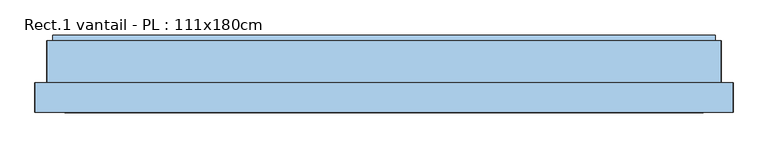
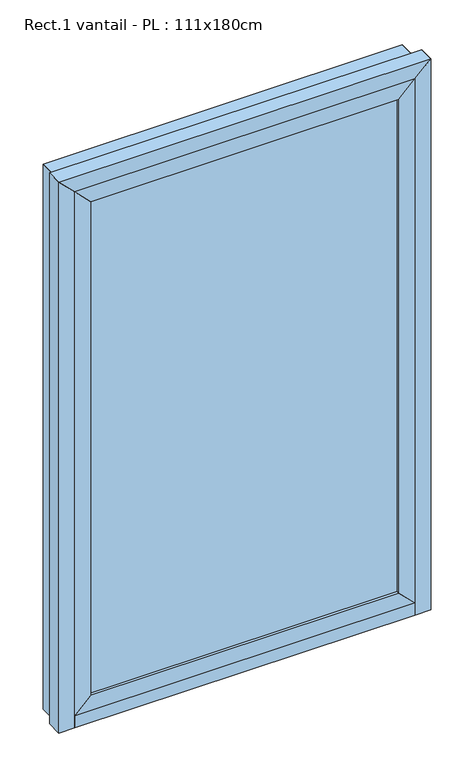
"""IFC4 building model written with IfcOpenShell, lengths in millimetres: window geometry, Rect.1 vantail - PL : 111x180cm."""

import ifcopenshell
import ifcopenshell.guid

model = None  # the IFC model being written
_history = None  # IfcOwnerHistory: only IFC2X3 demands one
_inside = {}  # id of a spatial element -> (the spatial element, [elements in it])
_under = {}  # id of a project, library or spatial element -> (it, [spatial elements below it])
_declared = {}  # id of a project -> (the project, [libraries it declares])
_typed = {}  # id of a type object -> (the type object, [elements of that type])
_made_of = {}  # id of a material, layer set ... -> (it, [elements and type objects made of it])


def new_model(schema):
    """Start an empty IFC model of exactly this schema.

    Asked for "IFC4X3", IfcOpenShell would pick the latest addendum, in which some entities
    have other attributes; the version numbers below select the first issue.
    IFC2X3 requires an IfcOwnerHistory on every rooted entity: one is made here for all.
    """
    global model, _history
    if schema == "IFC4X3":
        model = ifcopenshell.file(schema_version=(4, 3, 0, 0))
    else:
        model = ifcopenshell.file(schema=schema)
    _inside.clear()
    _under.clear()
    _declared.clear()
    _typed.clear()
    _made_of.clear()
    _history = None
    if model.schema == "IFC2X3":
        org = make("IfcOrganization", Name="unknown")
        user = make(
            "IfcPersonAndOrganization",
            ThePerson=make("IfcPerson", FamilyName="unknown"),
            TheOrganization=org,
        )
        app = make(
            "IfcApplication",
            ApplicationDeveloper=org,
            Version="unknown",
            ApplicationFullName="unknown",
            ApplicationIdentifier="unknown",
        )
        _history = make(
            "IfcOwnerHistory",
            OwningUser=user,
            OwningApplication=app,
            ChangeAction="ADDED",
            CreationDate=0,
        )
    return model


def make(cls, **values):
    """One entity of the class cls with the attributes given. An attribute that is None is left unset."""
    return model.create_entity(
        cls, **{name: value for name, value in values.items() if value is not None}
    )


def rooted(cls, **values):
    """An entity with a GlobalId (a new one), such as an element, a storey or a relation."""
    return make(cls, GlobalId=ifcopenshell.guid.new(), OwnerHistory=_history, **values)


def si_unit(unit_type, name, prefix=None):
    """IfcSIUnit, for example si_unit("LENGTHUNIT", "METRE", prefix="MILLI")."""
    return make("IfcSIUnit", UnitType=unit_type, Prefix=prefix, Name=name)


def assignment(units):
    """IfcUnitAssignment: the units of a project."""
    return None if units is None else make("IfcUnitAssignment", Units=units)


def point(xyz):
    """IfcCartesianPoint."""
    return None if xyz is None else make("IfcCartesianPoint", Coordinates=xyz)


def direction(xyz):
    """IfcDirection."""
    return None if xyz is None else make("IfcDirection", DirectionRatios=xyz)


def frame(location, z_axis=None, x_axis=None):
    """IfcAxis2Placement3D, a coordinate frame: its origin and axes. An axis left out is left unset."""
    return make(
        "IfcAxis2Placement3D",
        Location=point(location),
        Axis=direction(z_axis),
        RefDirection=direction(x_axis),
    )


def origin():
    """The frame at (0, 0, 0) with its axes left unset."""
    return frame((0.0, 0.0, 0.0))


def origin_with_axes():
    """The frame at (0, 0, 0) with the z axis (0, 0, 1) and the x axis (1, 0, 0) written out."""
    return frame((0.0, 0.0, 0.0), z_axis=(0.0, 0.0, 1.0), x_axis=(1.0, 0.0, 0.0))


def place(relative_to, where):
    """IfcLocalPlacement: puts the frame where relative to a parent placement (None: the world)."""
    return make(
        "IfcLocalPlacement", PlacementRelTo=relative_to, RelativePlacement=where
    )


def context(
    kind, dimensions, precision=None, world=None, true_north=None, identifier=None
):
    """IfcGeometricRepresentationContext, for example the 3D "Model" context."""
    return make(
        "IfcGeometricRepresentationContext",
        ContextIdentifier=identifier,
        ContextType=kind,
        CoordinateSpaceDimension=dimensions,
        Precision=precision,
        WorldCoordinateSystem=world,
        TrueNorth=true_north,
    )


def project(units=None, contexts=None):
    """IfcProject with its units and contexts."""
    return rooted(
        "IfcProject",
        Name="project",
        RepresentationContexts=contexts,
        UnitsInContext=assignment(units),
    )


def spatial(cls, under=None, at=None, **own):
    """A site, building, storey or space (cls), placed at a placement, below another one or the project."""
    s = rooted(cls, ObjectPlacement=at, **own)
    if under is not None:
        _under.setdefault(under.id(), (under, []))[1].append(s)
    return s


def polyline(points):
    """IfcPolyline through the points."""
    return make("IfcPolyline", Points=[point(p) for p in points])


def outline(outer, holes=None, kind="AREA"):
    """IfcArbitraryClosedProfileDef: a profile drawn as a closed curve; with holes, ...WithVoids."""
    if holes is None:
        return make("IfcArbitraryClosedProfileDef", ProfileType=kind, OuterCurve=outer)
    return make(
        "IfcArbitraryProfileDefWithVoids",
        ProfileType=kind,
        OuterCurve=outer,
        InnerCurves=holes,
    )


def extrude(swept, where, along, depth):
    """IfcExtrudedAreaSolid: the profile swept, set in the frame where, extruded along a direction by depth."""
    return make(
        "IfcExtrudedAreaSolid",
        SweptArea=swept,
        Position=where,
        ExtrudedDirection=direction(along),
        Depth=depth,
    )


def shape(context_of_items, identifier, shape_type, items):
    """IfcShapeRepresentation: the items that make up one representation, for example the "Body"."""
    return make(
        "IfcShapeRepresentation",
        ContextOfItems=context_of_items,
        RepresentationIdentifier=identifier,
        RepresentationType=shape_type,
        Items=items,
    )


def source(mapping_origin, context_of_items, identifier, shape_type, items):
    """IfcRepresentationMap: a shape defined once, which mapped items show again and again."""
    return make(
        "IfcRepresentationMap",
        MappingOrigin=mapping_origin,
        MappedRepresentation=shape(context_of_items, identifier, shape_type, items),
    )


def transform(
    local_origin,
    x_axis=None,
    y_axis=None,
    z_axis=None,
    scale=None,
    scale2=None,
    scale3=None,
    uniform=True,
):
    """IfcCartesianTransformationOperator3D, or its non-uniform kind. x_axis, y_axis, z_axis: its Axis1, 2, 3."""
    if uniform:
        return make(
            "IfcCartesianTransformationOperator3D",
            Axis1=direction(x_axis),
            Axis2=direction(y_axis),
            LocalOrigin=point(local_origin),
            Scale=scale,
            Axis3=direction(z_axis),
        )
    return make(
        "IfcCartesianTransformationOperator3DnonUniform",
        Axis1=direction(x_axis),
        Axis2=direction(y_axis),
        LocalOrigin=point(local_origin),
        Scale=scale,
        Axis3=direction(z_axis),
        Scale2=scale2,
        Scale3=scale3,
    )


def mapped(mapping_source, mapping_target):
    """IfcMappedItem: shows the shape of a source again, moved by a transform."""
    return make(
        "IfcMappedItem", MappingSource=mapping_source, MappingTarget=mapping_target
    )


def made_of(thing, what):
    """Note that an element or type object is made of a material, layer set ...; save() writes the relation."""
    if what is not None:
        _made_of.setdefault(what.id(), (what, []))[1].append(thing)
    return thing


def element(
    cls,
    number,
    at=None,
    inside=None,
    cuts=None,
    type_object=None,
    material=None,
    context=None,
    identifier="Body",
    shape_type=None,
    held_by="IfcProductDefinitionShape",
    body=None,
    shapes=None,
    **own,
):
    """One element of the class cls, such as IfcWall. Its Tag is "e" and its number.

    at: its placement. inside: the storey or other place that contains it. cuts: it is an
    opening in that element (IfcRelVoidsElement). A single representation is given by context,
    identifier, shape_type and body (its items); several are given by shapes. held_by: the class
    of the entity that holds the representations. save() writes the other relations.
    """
    e = rooted(cls, Tag="e%d" % number, ObjectPlacement=at, **own)
    if body is not None:
        shapes = [shape(context, identifier, shape_type, body)]
    if shapes is not None:
        e.Representation = make(held_by, Representations=shapes)
    if inside is not None:
        _inside.setdefault(inside.id(), (inside, []))[1].append(e)
    if cuts is not None:
        rooted(
            "IfcRelVoidsElement", RelatingBuildingElement=cuts, RelatedOpeningElement=e
        )
    if type_object is not None:
        _typed.setdefault(type_object.id(), (type_object, []))[1].append(e)
    return made_of(e, material)


def aggregate(whole, parts):
    """IfcRelAggregates: a whole, such as a stair, and the parts it consists of."""
    return rooted("IfcRelAggregates", RelatingObject=whole, RelatedObjects=parts)


def save(model, path):
    """Write the relations noted so far, then the file.

    IfcRelAggregates (storeys below a building ...), IfcRelContainedInSpatialStructure (elements
    in a storey), IfcRelDefinesByType, IfcRelAssociatesMaterial and IfcRelDeclares: one each for
    every whole, place, type object, material and project.
    """
    for whole, parts in _under.values():
        aggregate(whole, parts)
    for where, things in _inside.values():
        rooted(
            "IfcRelContainedInSpatialStructure",
            RelatedElements=things,
            RelatingStructure=where,
        )
    for kind, things in _typed.values():
        rooted("IfcRelDefinesByType", RelatedObjects=things, RelatingType=kind)
    for what, things in _made_of.values():
        rooted("IfcRelAssociatesMaterial", RelatedObjects=things, RelatingMaterial=what)
    for by, libraries in _declared.values():
        rooted("IfcRelDeclares", RelatingContext=by, RelatedDefinitions=libraries)
    model.write(path)


def rect_1_vantail_pl_111x180cm_d09b1cfd(model_context):
    return source(origin(), model_context, "Body", "SweptSolid", [
        extrude(outline(polyline([(485.0, 10.0), (-485.0, 10.0), (-485.0, 30.0), (485.0, 30.0), (485.0, 10.0)])), frame((0.0, 0.0, 90.0), z_axis=(0.0, 0.0, 1.0), x_axis=(1.0, 0.0, 0.0)), (0.0, 0.0, 1.0), 1640.0),
        extrude(outline(polyline([(40.0, -535.0), (90.0, -485.0), (1730.0, -485.0), (1780.0, -535.0), (40.0, -535.0)])), frame((0.0, 0.0, 0.0), z_axis=(0.0, 1.0, 0.0), x_axis=(0.0, 0.0, 1.0)), (0.0, 0.0, 1.0), 40.0),
        extrude(outline(polyline([(90.0, 485.0), (40.0, 535.0), (1780.0, 535.0), (1730.0, 485.0), (90.0, 485.0)])), frame((0.0, 0.0, 0.0), z_axis=(0.0, 1.0, 0.0), x_axis=(0.0, 0.0, 1.0)), (0.0, 0.0, 1.0), 40.0),
        extrude(outline(polyline([(1780.0, 535.0), (1780.0, -535.0), (1730.0, -485.0), (1730.0, 485.0), (1780.0, 535.0)])), frame((0.0, 0.0, 0.0), z_axis=(0.0, 1.0, 0.0), x_axis=(0.0, 0.0, 1.0)), (0.0, 0.0, 1.0), 40.0),
        extrude(outline(polyline([(40.0, 535.0), (90.0, 485.0), (90.0, -485.0), (40.0, -535.0), (40.0, 535.0)])), frame((0.0, 0.0, 0.0), z_axis=(0.0, 1.0, 0.0), x_axis=(0.0, 0.0, 1.0)), (0.0, 0.0, 1.0), 40.0),
        extrude(outline(polyline([(535.0, 50.0), (535.0, 0.0), (-535.0, 0.0), (-535.0, 50.0), (535.0, 50.0)])), origin_with_axes(), (0.0, 0.0, 1.0), 40.0),
        extrude(outline(polyline([(130.0, 30.0), (130.0, 0.0), (50.0, 0.0), (50.0, 40.0), (130.0, 30.0)])), frame((-555.0, 0.0, 0.0), z_axis=(1.0, 0.0, 0.0), x_axis=(0.0, 1.0, 0.0)), (0.0, 0.0, 1.0), 1110.0),
        extrude(outline(polyline([(1810.0, -565.0), (0.0, -565.0), (0.0, -555.0), (1800.0, -555.0), (1810.0, -565.0)])), frame((0.0, 50.0, 0.0), z_axis=(0.0, 1.0, 0.0), x_axis=(0.0, 0.0, 1.0)), (0.0, 0.0, 1.0), 70.0),
        extrude(outline(polyline([(1810.0, 565.0), (1800.0, 555.0), (0.0, 555.0), (0.0, 565.0), (1810.0, 565.0)])), frame((0.0, 50.0, 0.0), z_axis=(0.0, 1.0, 0.0), x_axis=(0.0, 0.0, 1.0)), (0.0, 0.0, 1.0), 70.0),
        extrude(outline(polyline([(0.0, -585.0), (0.0, -535.0), (1780.0, -535.0), (1830.0, -585.0), (0.0, -585.0)])), frame((0.0, 0.0, 0.0), z_axis=(0.0, 1.0, 0.0), x_axis=(0.0, 0.0, 1.0)), (0.0, 0.0, 1.0), 50.0),
        extrude(outline(polyline([(0.0, 585.0), (1830.0, 585.0), (1780.0, 535.0), (0.0, 535.0), (0.0, 585.0)])), frame((0.0, 0.0, 0.0), z_axis=(0.0, 1.0, 0.0), x_axis=(0.0, 0.0, 1.0)), (0.0, 0.0, 1.0), 50.0),
        extrude(outline(polyline([(1810.0, -565.0), (1800.0, -555.0), (1800.0, 555.0), (1810.0, 565.0), (1810.0, -565.0)])), frame((0.0, 50.0, 0.0), z_axis=(0.0, 1.0, 0.0), x_axis=(0.0, 0.0, 1.0)), (0.0, 0.0, 1.0), 70.0),
        extrude(outline(polyline([(1830.0, 585.0), (1830.0, -585.0), (1780.0, -535.0), (1780.0, 535.0), (1830.0, 585.0)])), frame((0.0, 0.0, 0.0), z_axis=(0.0, 1.0, 0.0), x_axis=(0.0, 0.0, 1.0)), (0.0, 0.0, 1.0), 50.0),
    ])


if __name__ == "__main__":
    model = new_model("IFC4")
    model_context = context("Model", 3, world=origin())
    ifc_project = project(units=[si_unit("LENGTHUNIT", "METRE", prefix="MILLI")], contexts=[model_context])
    site = spatial("IfcSite", under=ifc_project)
    building = spatial("IfcBuilding", under=site)
    placement = place(None, origin())
    rect_1_vantail_pl_111x180cm_shape = rect_1_vantail_pl_111x180cm_d09b1cfd(model_context)
    element("IfcWindow", 1, ObjectType="Rect.1 vantail - PL : 111x180cm", at=placement, inside=building, context=model_context, shape_type="MappedRepresentation", body=[
        mapped(rect_1_vantail_pl_111x180cm_shape, transform((0.0, 0.0, 0.0), x_axis=(1.0, 0.0, 0.0), y_axis=(0.0, 1.0, 0.0), z_axis=(0.0, 0.0, 1.0))),
    ])
    save(model, "model.ifc")
